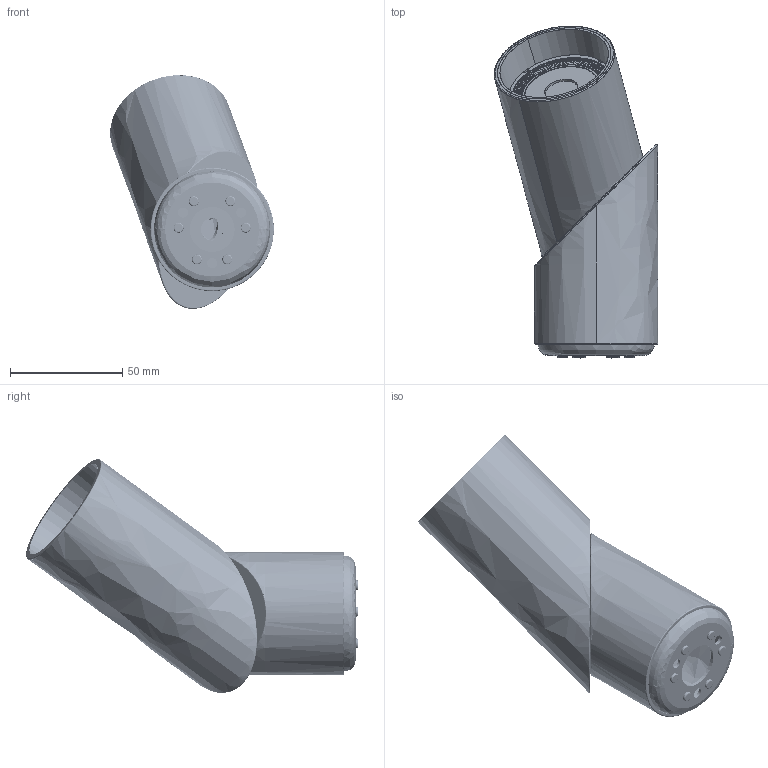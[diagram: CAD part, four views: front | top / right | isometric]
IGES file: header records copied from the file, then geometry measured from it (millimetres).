
Start section: SolidWorks IGES file using analytic representation for surfaces
Global section: file name: Z:\Modele 3D_WWW\_KOLEKCJE_WWW\INDIA-7858-7860\INDIA-7858-7860.IGS; native system: SolidWorks 2021; preprocessor: SolidWorks 2021; author: gabriela.tworek; date: 210830.105754; units: millimetre
Bounding box: 72.96 x 147.99 x 104.2 mm (x, y, z)
Surface area: 88869.7 mm2 (no closed solid volume)
Topology: 0 solids, 0 shells, 2086 faces, 30572 edges, 30572 vertices
Faces by surface type: revolution 1334, bspline 752
